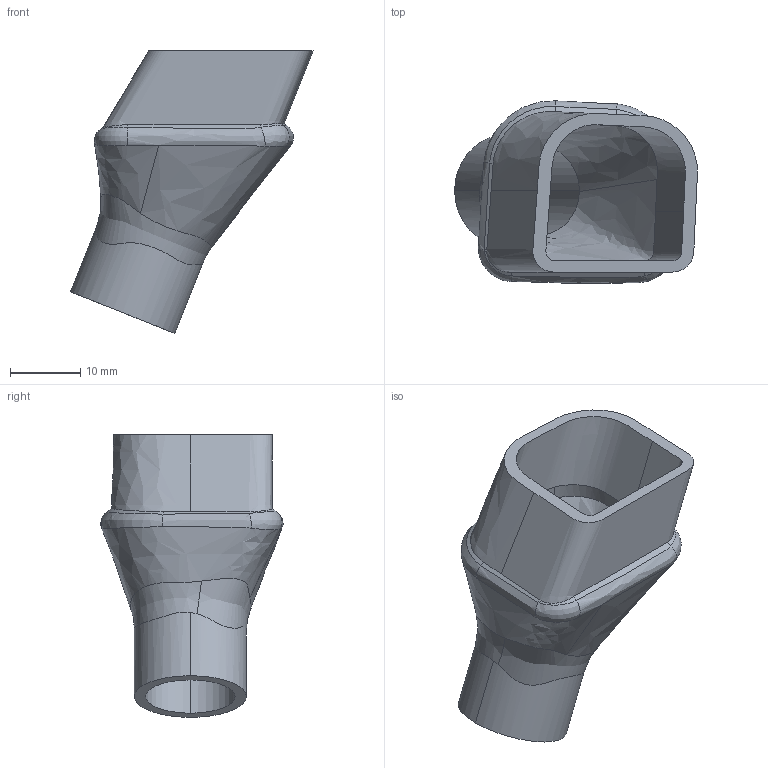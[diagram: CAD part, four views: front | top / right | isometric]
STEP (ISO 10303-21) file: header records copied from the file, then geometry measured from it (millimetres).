
FILE_DESCRIPTION (( 'STEP AP214' ), '1' );
FILE_NAME ('ïåðåõîäíèê ñÿîñîñà3.STEP', '2026-03-01T21:34:45', ( '' ), ( '' ), 'SwSTEP 2.0', 'SolidWorks 2025', '' );
FILE_SCHEMA (( 'AUTOMOTIVE_DESIGN' ));
Length unit declared in the file: millimetre
Products named in the file (1): переходник сяососа3
Bounding box: 34.67 x 26.03 x 40.35 mm (x, y, z)
Volume: 5315.9 mm3; surface area: 5423.5 mm2
Topology: 1 solids, 1 shells, 35 faces, 111 edges, 78 vertices
Faces by surface type: bspline 20, plane 6, cone 5, cylinder 4
Entity records: 6698 total; most frequent: CARTESIAN_POINT 5859, ORIENTED_EDGE 222, EDGE_CURVE 111, DIRECTION 97, VERTEX_POINT 78, B_SPLINE_CURVE_WITH_KNOTS 68, AXIS2_PLACEMENT_3D 38, EDGE_LOOP 37
